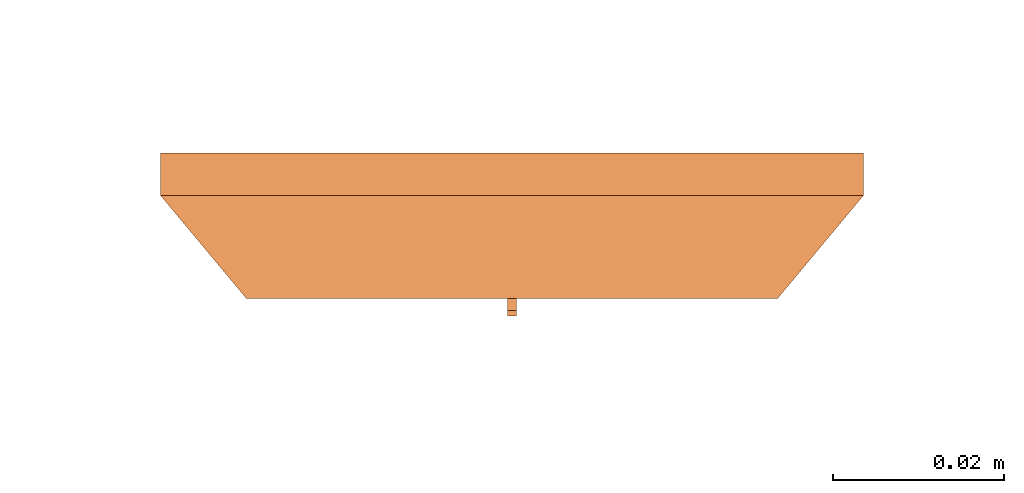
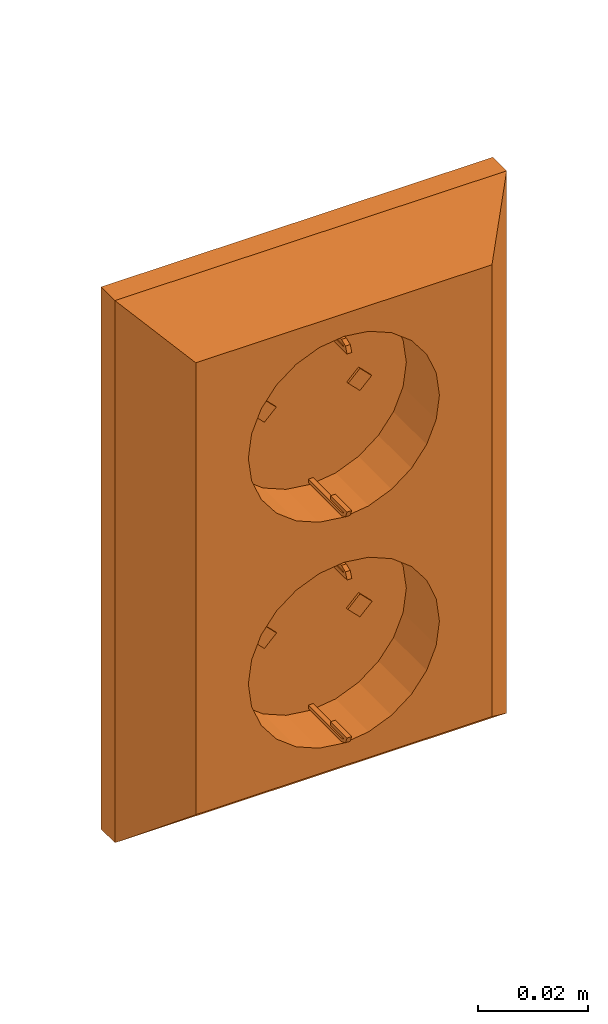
# One storey, part 9 of 9: 1 proxy.
"""IFC2X3 building model written with IfcOpenShell, lengths in millimetres."""

import ifcopenshell
import ifcopenshell.guid

model = None  # the IFC model being written
_history = None  # IfcOwnerHistory: only IFC2X3 demands one
_inside = {}  # id of a spatial element -> (the spatial element, [elements in it])
_under = {}  # id of a project, library or spatial element -> (it, [spatial elements below it])
_declared = {}  # id of a project -> (the project, [libraries it declares])
_typed = {}  # id of a type object -> (the type object, [elements of that type])
_made_of = {}  # id of a material, layer set ... -> (it, [elements and type objects made of it])


def new_model(schema):
    """Start an empty IFC model of exactly this schema.

    Asked for "IFC4X3", IfcOpenShell would pick the latest addendum, in which some entities
    have other attributes; the version numbers below select the first issue.
    IFC2X3 requires an IfcOwnerHistory on every rooted entity: one is made here for all.
    """
    global model, _history
    if schema == "IFC4X3":
        model = ifcopenshell.file(schema_version=(4, 3, 0, 0))
    else:
        model = ifcopenshell.file(schema=schema)
    _inside.clear()
    _under.clear()
    _declared.clear()
    _typed.clear()
    _made_of.clear()
    _history = None
    if model.schema == "IFC2X3":
        org = make("IfcOrganization", Name="unknown")
        user = make(
            "IfcPersonAndOrganization",
            ThePerson=make("IfcPerson", FamilyName="unknown"),
            TheOrganization=org,
        )
        app = make(
            "IfcApplication",
            ApplicationDeveloper=org,
            Version="unknown",
            ApplicationFullName="unknown",
            ApplicationIdentifier="unknown",
        )
        _history = make(
            "IfcOwnerHistory",
            OwningUser=user,
            OwningApplication=app,
            ChangeAction="ADDED",
            CreationDate=0,
        )
    return model


def make(cls, **values):
    """One entity of the class cls with the attributes given. An attribute that is None is left unset."""
    return model.create_entity(
        cls, **{name: value for name, value in values.items() if value is not None}
    )


def entity(cls, *values):
    """Any entity or typed value of the class cls, its attributes in the order of the schema. None: left unset."""
    e = model.create_entity(cls)
    for i, value in enumerate(values):
        if value is not None:
            e[i] = value
    return e


def rooted(cls, **values):
    """An entity with a GlobalId (a new one), such as an element, a storey or a relation."""
    return make(cls, GlobalId=ifcopenshell.guid.new(), OwnerHistory=_history, **values)


def si_unit(unit_type, name, prefix=None):
    """IfcSIUnit, for example si_unit("LENGTHUNIT", "METRE", prefix="MILLI")."""
    return make("IfcSIUnit", UnitType=unit_type, Prefix=prefix, Name=name)


def converted_unit(unit_type, name, factor, base, dimensions=None, offset=None):
    """IfcConversionBasedUnit, such as the inch: factor (a typed value) times the base unit."""
    return make(
        "IfcConversionBasedUnit"
        if offset is None
        else "IfcConversionBasedUnitWithOffset",
        ConversionOffset=offset,
        Dimensions=None
        if dimensions is None
        else entity("IfcDimensionalExponents", *dimensions),
        UnitType=unit_type,
        Name=name,
        ConversionFactor=make(
            "IfcMeasureWithUnit", ValueComponent=factor, UnitComponent=base
        ),
    )


def derived_unit(unit_type, elements):
    """IfcDerivedUnit: a product of units, each with its exponent."""
    return make(
        "IfcDerivedUnit",
        Elements=[
            make("IfcDerivedUnitElement", Unit=unit, Exponent=power)
            for unit, power in elements
        ],
        UnitType=unit_type,
    )


def assignment(units):
    """IfcUnitAssignment: the units of a project."""
    return None if units is None else make("IfcUnitAssignment", Units=units)


def point(xyz):
    """IfcCartesianPoint."""
    return None if xyz is None else make("IfcCartesianPoint", Coordinates=xyz)


def direction(xyz):
    """IfcDirection."""
    return None if xyz is None else make("IfcDirection", DirectionRatios=xyz)


def frame(location, z_axis=None, x_axis=None):
    """IfcAxis2Placement3D, a coordinate frame: its origin and axes. An axis left out is left unset."""
    return make(
        "IfcAxis2Placement3D",
        Location=point(location),
        Axis=direction(z_axis),
        RefDirection=direction(x_axis),
    )


def origin():
    """The frame at (0, 0, 0) with its axes left unset."""
    return frame((0.0, 0.0, 0.0))


def place(relative_to, where):
    """IfcLocalPlacement: puts the frame where relative to a parent placement (None: the world)."""
    return make(
        "IfcLocalPlacement", PlacementRelTo=relative_to, RelativePlacement=where
    )


def context(
    kind, dimensions, precision=None, world=None, true_north=None, identifier=None
):
    """IfcGeometricRepresentationContext, for example the 3D "Model" context."""
    return make(
        "IfcGeometricRepresentationContext",
        ContextIdentifier=identifier,
        ContextType=kind,
        CoordinateSpaceDimension=dimensions,
        Precision=precision,
        WorldCoordinateSystem=world,
        TrueNorth=true_north,
    )


def subcontext(parent, identifier, kind, view, scale=None):
    """IfcGeometricRepresentationSubContext, for example "Body" below "Model"."""
    return make(
        "IfcGeometricRepresentationSubContext",
        ContextIdentifier=identifier,
        ContextType=kind,
        ParentContext=parent,
        TargetScale=scale,
        TargetView=view,
    )


def project(units=None, contexts=None):
    """IfcProject with its units and contexts."""
    return rooted(
        "IfcProject",
        Name="project",
        RepresentationContexts=contexts,
        UnitsInContext=assignment(units),
    )


def spatial(cls, under=None, at=None, **own):
    """A site, building, storey or space (cls), placed at a placement, below another one or the project."""
    s = rooted(cls, ObjectPlacement=at, **own)
    if under is not None:
        _under.setdefault(under.id(), (under, []))[1].append(s)
    return s


def faces_of(points, faces, orient=None, outer=None):
    """IfcFace entities. A face is a list of loops; a loop is a list of indices into points, from 0.

    orient and outer hold one flag for each loop. By default every Orientation is true, the
    first loop of a face is its IfcFaceOuterBound and the others are IfcFaceBound.
    """
    made = []
    for i, loops in enumerate(faces):
        bounds = []
        for j, loop in enumerate(loops):
            is_outer = j == 0 if outer is None else outer[i][j]
            bounds.append(
                make(
                    "IfcFaceOuterBound" if is_outer else "IfcFaceBound",
                    Bound=make("IfcPolyLoop", Polygon=[points[k] for k in loop]),
                    Orientation=True if orient is None else orient[i][j],
                )
            )
        made.append(make("IfcFace", Bounds=bounds))
    return made


def faceted_brep(points, faces, orient=None, outer=None, voids=None):
    """IfcFacetedBrep: a solid bounded by flat faces; with voids (closed shells), ...WithVoids."""
    shared = [point(p) for p in points]
    hull = make("IfcClosedShell", CfsFaces=faces_of(shared, faces, orient, outer))
    if voids is None:
        return make("IfcFacetedBrep", Outer=hull)
    return make(
        "IfcFacetedBrepWithVoids",
        Outer=hull,
        Voids=[
            make(cls, CfsFaces=faces_of(shared, fs, o, b)) for cls, fs, o, b in voids
        ],
    )


def shape(context_of_items, identifier, shape_type, items):
    """IfcShapeRepresentation: the items that make up one representation, for example the "Body"."""
    return make(
        "IfcShapeRepresentation",
        ContextOfItems=context_of_items,
        RepresentationIdentifier=identifier,
        RepresentationType=shape_type,
        Items=items,
    )


def source(mapping_origin, context_of_items, identifier, shape_type, items):
    """IfcRepresentationMap: a shape defined once, which mapped items show again and again."""
    return make(
        "IfcRepresentationMap",
        MappingOrigin=mapping_origin,
        MappedRepresentation=shape(context_of_items, identifier, shape_type, items),
    )


def transform(
    local_origin,
    x_axis=None,
    y_axis=None,
    z_axis=None,
    scale=None,
    scale2=None,
    scale3=None,
    uniform=True,
):
    """IfcCartesianTransformationOperator3D, or its non-uniform kind. x_axis, y_axis, z_axis: its Axis1, 2, 3."""
    if uniform:
        return make(
            "IfcCartesianTransformationOperator3D",
            Axis1=direction(x_axis),
            Axis2=direction(y_axis),
            LocalOrigin=point(local_origin),
            Scale=scale,
            Axis3=direction(z_axis),
        )
    return make(
        "IfcCartesianTransformationOperator3DnonUniform",
        Axis1=direction(x_axis),
        Axis2=direction(y_axis),
        LocalOrigin=point(local_origin),
        Scale=scale,
        Axis3=direction(z_axis),
        Scale2=scale2,
        Scale3=scale3,
    )


def mapped(mapping_source, mapping_target):
    """IfcMappedItem: shows the shape of a source again, moved by a transform."""
    return make(
        "IfcMappedItem", MappingSource=mapping_source, MappingTarget=mapping_target
    )


def material(Name=None, Category=None):
    """IfcMaterial."""
    return make("IfcMaterial", Name=Name, Category=Category)


def material_list(materials):
    """IfcMaterialList."""
    return make("IfcMaterialList", Materials=materials)


def made_of(thing, what):
    """Note that an element or type object is made of a material, layer set ...; save() writes the relation."""
    if what is not None:
        _made_of.setdefault(what.id(), (what, []))[1].append(thing)
    return thing


def type_object(cls, material=None, **own):
    """A type object (cls), such as IfcWallType, which elements share."""
    return made_of(rooted(cls, **own), material)


def element(
    cls,
    number,
    at=None,
    inside=None,
    cuts=None,
    type_object=None,
    material=None,
    context=None,
    identifier="Body",
    shape_type=None,
    held_by="IfcProductDefinitionShape",
    body=None,
    shapes=None,
    **own,
):
    """One element of the class cls, such as IfcWall. Its Tag is "e" and its number.

    at: its placement. inside: the storey or other place that contains it. cuts: it is an
    opening in that element (IfcRelVoidsElement). A single representation is given by context,
    identifier, shape_type and body (its items); several are given by shapes. held_by: the class
    of the entity that holds the representations. save() writes the other relations.
    """
    e = rooted(cls, Tag="e%d" % number, ObjectPlacement=at, **own)
    if body is not None:
        shapes = [shape(context, identifier, shape_type, body)]
    if shapes is not None:
        e.Representation = make(held_by, Representations=shapes)
    if inside is not None:
        _inside.setdefault(inside.id(), (inside, []))[1].append(e)
    if cuts is not None:
        rooted(
            "IfcRelVoidsElement", RelatingBuildingElement=cuts, RelatedOpeningElement=e
        )
    if type_object is not None:
        _typed.setdefault(type_object.id(), (type_object, []))[1].append(e)
    return made_of(e, material)


def aggregate(whole, parts):
    """IfcRelAggregates: a whole, such as a stair, and the parts it consists of."""
    return rooted("IfcRelAggregates", RelatingObject=whole, RelatedObjects=parts)


def save(model, path):
    """Write the relations noted so far, then the file.

    IfcRelAggregates (storeys below a building ...), IfcRelContainedInSpatialStructure (elements
    in a storey), IfcRelDefinesByType, IfcRelAssociatesMaterial and IfcRelDeclares: one each for
    every whole, place, type object, material and project.
    """
    for whole, parts in _under.values():
        aggregate(whole, parts)
    for where, things in _inside.values():
        rooted(
            "IfcRelContainedInSpatialStructure",
            RelatedElements=things,
            RelatingStructure=where,
        )
    for kind, things in _typed.values():
        rooted("IfcRelDefinesByType", RelatedObjects=things, RelatingType=kind)
    for what, things in _made_of.values():
        rooted("IfcRelAssociatesMaterial", RelatedObjects=things, RelatingMaterial=what)
    for by, libraries in _declared.values():
        rooted("IfcRelDeclares", RelatingContext=by, RelatedDefinitions=libraries)
    model.write(path)


model = new_model("IFC2X3")

# Units and contexts
model_context = context("Model", 3, precision=0.01, world=frame((0.0, 4.29681676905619e-09, 0.0)), true_north=direction((4.01073788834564e-13, 1.0)))
plan_context = context("Plan", 3, precision=0.01, world=frame((0.0, 4.29681676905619e-09, 0.0)), true_north=direction((4.01073788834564e-13, 1.0)))
body_context = subcontext(model_context, "Body", "Model", "MODEL_VIEW")
ifc_project = project(units=[converted_unit("PLANEANGLEUNIT", "DEGREE", entity("IfcPositiveLengthMeasure", 0.0174532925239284), si_unit("PLANEANGLEUNIT", "RADIAN"), dimensions=[0, 0, 0, 0, 0, 0, 0]), si_unit("AREAUNIT", "SQUARE_METRE"), si_unit("LENGTHUNIT", "METRE", prefix="MILLI"), si_unit("MASSUNIT", "GRAM", prefix="KILO"), si_unit("POWERUNIT", "WATT"), si_unit("PRESSUREUNIT", "PASCAL", prefix="KILO"), si_unit("FORCEUNIT", "NEWTON", prefix="KILO"), si_unit("ELECTRICVOLTAGEUNIT", "VOLT"), si_unit("ELECTRICCURRENTUNIT", "AMPERE"), si_unit("THERMODYNAMICTEMPERATUREUNIT", "DEGREE_CELSIUS"), si_unit("TIMEUNIT", "SECOND"), si_unit("VOLUMEUNIT", "CUBIC_METRE"), derived_unit("LINEARVELOCITYUNIT", [(si_unit("LENGTHUNIT", "METRE"), 1), (si_unit("TIMEUNIT", "SECOND"), -1)]), derived_unit("VOLUMETRICFLOWRATEUNIT", [(si_unit("VOLUMEUNIT", "CUBIC_METRE"), 1), (si_unit("TIMEUNIT", "SECOND"), -1)]), derived_unit("THERMALTRANSMITTANCEUNIT", [(si_unit("POWERUNIT", "WATT"), 1), (si_unit("THERMODYNAMICTEMPERATUREUNIT", "KELVIN"), -1), (si_unit("AREAUNIT", "SQUARE_METRE"), -1)]), derived_unit("SOUNDPRESSUREUNIT", [(si_unit("PRESSUREUNIT", "PASCAL"), 1)])], contexts=[model_context, plan_context])

# Site, building, storey
site_placement = place(None, frame((0.0, -4.29681676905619e-09, 0.0), z_axis=(0.0, 0.0, 1.0), x_axis=(1.0, 0.0, 0.0)))
site = spatial("IfcSite", under=ifc_project, at=site_placement, Name="Default", CompositionType="ELEMENT")
building_placement = place(site_placement, frame((0.0, 4.29681676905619e-09, 0.0), z_axis=(0.0, 0.0, 1.0), x_axis=(1.0, 0.0, 0.0)))
building = spatial("IfcBuilding", under=site, at=building_placement, CompositionType="ELEMENT")
storey_placement = place(building_placement, frame((0.0, 0.0, 210900.0), z_axis=(0.0, 0.0, 1.0), x_axis=(1.0, 0.0, 0.0)))
storey = spatial("IfcBuildingStorey", under=building, at=storey_placement, Name="Nivå F", CompositionType="ELEMENT", Elevation=210900.0)

# Proxy
ifc_material_1 = material(Name="Material3")
ifc_material_2 = material(Name="Material2")
ifc_material_3 = material(Name="Material1")
ifc_material_list = material_list([ifc_material_1, ifc_material_2, ifc_material_3])
building_element_proxy_type = type_object("IfcBuildingElementProxyType", Name="Jordet-topolet-2-veis-m_boks (VERT):Jordet-topolet-2-veis-m_boks", PredefinedType="NOTDEFINED", material=ifc_material_list)
shared_shape = source(origin(), body_context, "Body", "Brep", [
    faceted_brep([(0.499999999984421, 17.9077381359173, -43.2900460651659), (0.499999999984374, 17.4980087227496, -43.5927590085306), (0.499999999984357, 17.0, -43.6999999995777), (0.499999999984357, 5.0, -43.6999999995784), (0.499999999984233, 5.0, -44.4999999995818), (0.499999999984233, 17.0, -44.4999999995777), (0.499999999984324, 18.4212520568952, -43.9112981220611), (0.499999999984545, 19.0099539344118, -42.490046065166), (0.499999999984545, 13.0337787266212, -42.4900460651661), (0.499999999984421, 13.0337787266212, -43.2900460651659), (-0.500000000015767, 5.0, -44.4999999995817), (-0.500000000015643, 5.0, -43.6999999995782), (-0.500000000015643, 17.0, -43.6999999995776), (-0.500000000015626, 17.4980087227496, -43.5927590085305), (-0.500000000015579, 17.9077381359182, -43.2900460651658), (-0.500000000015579, 13.0337787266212, -43.2900460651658), (-0.500000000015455, 13.0337787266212, -42.4900460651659), (-0.500000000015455, 19.0099539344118, -42.4900460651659), (-0.500000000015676, 18.4212520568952, -43.911298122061), (-0.500000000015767, 17.0, -44.4999999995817)], [[[0, 1, 2, 3, 4, 5, 6, 7, 8, 9]], [[10, 11, 12, 13, 14, 15, 16, 17, 18, 19]], [[10, 19, 5, 4]], [[11, 10, 4, 3]], [[12, 11, 3, 2]], [[2, 1, 13, 12]], [[0, 14, 13, 1]], [[15, 14, 0, 9]], [[16, 15, 9, 8]], [[17, 16, 8, 7]], [[17, 7, 6, 18]], [[6, 5, 19, 18]]]),
    faceted_brep([(-0.500000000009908, 17.9240022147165, -6.72220296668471), (-0.500000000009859, 17.5079457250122, -6.41055048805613), (-0.500000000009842, 17.0, -6.29999999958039), (-0.500000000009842, 5.0, -6.29999999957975), (-0.500000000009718, 5.0, -5.49999999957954), (-0.500000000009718, 17.0, -5.49999999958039), (-0.50000000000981, 18.429913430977, -6.09228953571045), (-0.500000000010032, 19.022202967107, -7.52220296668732), (-0.500000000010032, 13.0667616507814, -7.52220296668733), (-0.500000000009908, 13.0667616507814, -6.7222029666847), (0.499999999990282, 5.0, -5.4999999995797), (0.499999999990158, 5.0, -6.29999999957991), (0.499999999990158, 17.0, -6.29999999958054), (0.499999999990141, 17.5079457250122, -6.41055048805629), (0.499999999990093, 17.9240022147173, -6.72220296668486), (0.499999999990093, 13.0667616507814, -6.72220296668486), (0.499999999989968, 13.0667616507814, -7.52220296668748), (0.499999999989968, 19.022202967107, -7.52220296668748), (0.49999999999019, 18.429913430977, -6.09228953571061), (0.499999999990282, 17.0, -5.4999999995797)], [[[0, 1, 2, 3, 4, 5, 6, 7, 8, 9]], [[10, 11, 12, 13, 14, 15, 16, 17, 18, 19]], [[5, 19, 18, 6]], [[18, 17, 7, 6]], [[8, 7, 17, 16]], [[9, 8, 16, 15]], [[0, 9, 15, 14]], [[14, 13, 1, 0]], [[12, 2, 1, 13]], [[3, 2, 12, 11]], [[4, 3, 11, 10]], [[5, 4, 10, 19]]]),
    faceted_brep([(-0.500000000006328, 18.4212520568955, 6.0887018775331), (-0.500000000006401, 17.0, 5.5000000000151), (-0.500000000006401, 5.0, 5.5000000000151), (-0.500000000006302, 5.0, 6.30000000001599), (-0.500000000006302, 17.0, 6.30000000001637), (-0.500000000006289, 17.4980087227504, 6.40724099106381), (-0.500000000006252, 17.9077381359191, 6.70995393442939), (-0.500000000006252, 13.0337787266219, 6.70995393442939), (-0.500000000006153, 13.0337787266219, 7.50995393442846), (-0.500000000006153, 19.0099539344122, 7.50995393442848), (0.499999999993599, 5.0, 5.50000000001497), (0.499999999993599, 17.0, 5.50000000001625), (0.499999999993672, 18.4212520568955, 6.08870187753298), (0.499999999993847, 19.0099539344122, 7.50995393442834), (0.499999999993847, 13.0337787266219, 7.50995393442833), (0.499999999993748, 13.0337787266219, 6.70995393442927), (0.499999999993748, 17.9077381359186, 6.70995393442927), (0.499999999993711, 17.4980087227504, 6.40724099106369), (0.499999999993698, 17.0, 6.30000000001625), (0.499999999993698, 5.0, 6.30000000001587)], [[[0, 1, 2, 3, 4, 5, 6, 7, 8, 9]], [[10, 11, 12, 13, 14, 15, 16, 17, 18, 19]], [[2, 1, 11, 10]], [[3, 2, 10, 19]], [[4, 3, 19, 18]], [[18, 17, 5, 4]], [[16, 6, 5, 17]], [[7, 6, 16, 15]], [[8, 7, 15, 14]], [[9, 8, 14, 13]], [[9, 13, 12, 0]], [[12, 11, 1, 0]]]),
    faceted_brep([(-0.50000000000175, 17.9240022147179, 43.2777970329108), (-0.500000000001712, 17.5079457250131, 43.5894495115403), (-0.500000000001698, 17.0, 43.7000000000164), (-0.500000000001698, 5.0, 43.7000000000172), (-0.5000000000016, 5.0, 44.5000000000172), (-0.5000000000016, 17.0, 44.5000000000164), (-0.500000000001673, 18.4299134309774, 43.9077104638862), (-0.500000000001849, 19.0222029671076, 42.4777970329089), (-0.500000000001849, 13.0667616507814, 42.4777970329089), (-0.50000000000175, 13.0667616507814, 43.2777970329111), (0.4999999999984, 5.0, 44.5000000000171), (0.499999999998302, 5.0, 43.7000000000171), (0.499999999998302, 17.0, 43.7000000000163), (0.499999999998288, 17.5079457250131, 43.5894495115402), (0.49999999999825, 17.9240022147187, 43.277797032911), (0.49999999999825, 13.0667616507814, 43.277797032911), (0.499999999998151, 13.0667616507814, 42.4777970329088), (0.499999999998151, 19.0222029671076, 42.4777970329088), (0.499999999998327, 18.4299134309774, 43.9077104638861), (0.4999999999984, 17.0, 44.5000000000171)], [[[0, 1, 2, 3, 4, 5, 6, 7, 8, 9]], [[10, 11, 12, 13, 14, 15, 16, 17, 18, 19]], [[5, 19, 18, 6]], [[18, 17, 7, 6]], [[8, 7, 17, 16]], [[9, 8, 16, 15]], [[0, 9, 15, 14]], [[14, 13, 1, 0]], [[12, 2, 1, 13]], [[3, 2, 12, 11]], [[4, 3, 11, 10]], [[5, 4, 10, 19]]]),
    faceted_brep([(-8.89218180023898, 5.50000000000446, -26.4355061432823), (-10.0, 5.50000000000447, -27.5433243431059), (-11.2716621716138, 5.50000000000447, -26.2716621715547), (-12.5433243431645, 5.50000000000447, -25.0), (-11.107818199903, 5.50000000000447, -23.5644938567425), (-10.0, 5.50000000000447, -22.456675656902), (-8.72833782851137, 5.50000000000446, -23.7283378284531), (-7.45667565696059, 5.50000000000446, -25.0), (-7.45667565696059, 5.0, -25.0), (-8.72833782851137, 5.0, -23.7283378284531), (-10.0, 5.0, -22.456675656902), (-11.2716621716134, 5.0, -23.7283378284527), (-12.5433243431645, 5.0, -25.0), (-11.2716621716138, 5.0, -26.2716621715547), (-10.0, 5.0, -27.5433243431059), (-8.72833782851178, 5.0, -26.2716621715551)], [[[0, 1, 2, 3, 4, 5, 6, 7]], [[8, 9, 10, 11, 12, 13, 14, 15]], [[11, 10, 5, 4, 3, 12]], [[13, 12, 3, 2, 1, 14]], [[15, 14, 1, 0, 7, 8]], [[9, 8, 7, 6, 5, 10]]]),
    faceted_brep([(12.5429237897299, 5.0, -25.0), (11.2714618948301, 5.0, -23.7285381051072), (10.0, 5.0, -22.457076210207), (8.72853810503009, 5.0, -23.7285381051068), (7.4570762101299, 5.0, -25.0), (8.72853810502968, 5.0, -26.2714618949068), (10.0, 5.0, -27.542923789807), (11.2714618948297, 5.0, -26.2714618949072), (11.1077309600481, 5.50000000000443, -23.5648071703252), (12.5429237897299, 5.50000000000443, -25.0), (11.2714618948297, 5.50000000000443, -26.2714618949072), (10.0, 5.50000000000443, -27.542923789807), (8.89226903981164, 5.50000000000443, -26.4351928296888), (7.4570762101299, 5.50000000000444, -25.0), (8.72853810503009, 5.50000000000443, -23.7285381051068), (10.0, 5.50000000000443, -22.457076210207)], [[[0, 1, 2, 3, 4, 5, 6, 7]], [[8, 9, 10, 11, 12, 13, 14, 15]], [[15, 14, 13, 4, 3, 2]], [[13, 12, 11, 6, 5, 4]], [[11, 10, 9, 0, 7, 6]], [[9, 8, 15, 2, 1, 0]]]),
    faceted_brep([(-7.54751482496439, 5.50000000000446, 25.0), (-8.9121454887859, 5.50000000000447, 23.6353693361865), (-10.0, 5.50000000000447, 22.5475148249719), (-11.2262425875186, 5.50000000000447, 23.7737574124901), (-12.4524851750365, 5.50000000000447, 25.0), (-11.0878545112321, 5.50000000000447, 26.3646306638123), (-10.0, 5.50000000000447, 27.452485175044), (-8.77375741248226, 5.50000000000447, 26.2262425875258), (-11.2262425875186, 5.0, 23.7737574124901), (-10.0, 5.0, 22.5475148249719), (-8.77375741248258, 5.0, 23.7737574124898), (-7.54751482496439, 5.0, 25.0), (-8.77375741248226, 5.0, 26.2262425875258), (-10.0, 5.0, 27.452485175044), (-11.2262425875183, 5.0, 26.2262425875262), (-12.4524851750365, 5.0, 25.0)], [[[0, 1, 2, 3, 4, 5, 6, 7]], [[8, 9, 10, 11, 12, 13, 14, 15]], [[14, 13, 6, 5, 4, 15]], [[8, 15, 4, 3, 2, 9]], [[10, 9, 2, 1, 0, 11]], [[12, 11, 0, 7, 6, 13]]]),
    faceted_brep([(8.76085027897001, 5.0, 23.7608502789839), (10.0, 5.0, 22.5217005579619), (11.2391497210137, 5.0, 23.7608502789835), (12.4782994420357, 5.0, 25.0), (11.239149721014, 5.0, 26.2391497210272), (10.0, 5.0, 27.4782994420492), (8.76085027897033, 5.0, 26.2391497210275), (7.52170055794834, 5.0, 25.0), (11.2391497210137, 5.50000000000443, 23.7608502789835), (10.0, 5.50000000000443, 22.5217005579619), (8.90643522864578, 5.50000000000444, 23.6152653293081), (7.52170055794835, 5.50000000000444, 25.0), (8.76085027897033, 5.50000000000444, 26.2391497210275), (10.0, 5.50000000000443, 27.4782994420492), (11.0935647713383, 5.50000000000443, 26.384734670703), (12.4782994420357, 5.50000000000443, 25.0)], [[[0, 1, 2, 3, 4, 5, 6, 7]], [[8, 9, 10, 11, 12, 13, 14, 15]], [[13, 12, 11, 7, 6, 5]], [[11, 10, 9, 1, 0, 7]], [[9, 8, 15, 3, 2, 1]], [[15, 14, 13, 5, 4, 3]]]),
    faceted_brep([(41.0, 5.0, -60.0), (19.318516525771, 5.0, -30.1763809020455), (17.3205080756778, 5.0, -35.0), (20.0, 5.0, -25.0), (14.1421356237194, 5.0, -39.1421356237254), (10.0, 5.0, -42.3205080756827), (5.17638090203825, 5.0, -44.3185165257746), (0.0, 5.0, -45.0), (19.3185165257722, 5.0, -19.8236190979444), (19.3185165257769, 5.0, 19.8236190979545), (-41.0, 5.0, -60.0), (41.0, 5.0, 60.0), (20.0, 5.0, 25.0), (19.3185165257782, 5.0, 30.1763809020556), (17.3205080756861, 5.0, 35.0), (14.1421356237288, 5.0, 39.1421356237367), (10.0, 5.0, 42.320508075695), (5.17638090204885, 5.0, 44.3185165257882), (0.0, 5.0, 45.0), (-41.0, 5.0, 60.0), (-19.3185165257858, 5.0, 19.8236190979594), (-20.0, 5.0, 25.0), (-5.17638090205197, 5.0, 44.3185165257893), (-10.0, 5.0, 42.3205080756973), (-14.1421356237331, 5.0, 39.14213562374), (-17.3205080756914, 5.0, 35.0), (-19.3185165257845, 5.0, 30.17638090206), (17.3205080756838, 5.0, 15.0), (17.3205080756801, 5.0, -15.0), (14.1421356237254, 5.0, 10.8578643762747), (14.1421356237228, 5.0, -10.8578643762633), (10.0, 5.0, 7.67949192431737), (10.0, 5.0, -7.67949192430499), (5.17638090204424, 5.0, 5.68148347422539), (5.17638090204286, 5.0, -5.68148347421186), (0.0, 5.0, -5.0), (0.0, 5.0, 5.0), (-5.17638090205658, 5.0, 5.68148347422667), (-5.17638090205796, 5.0, -5.68148347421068), (-10.0, 5.0, -7.67949192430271), (-10.0, 5.0, 7.67949192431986), (-14.1421356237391, 5.0, -10.8578643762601), (-14.1421356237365, 5.0, 10.8578643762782), (-17.3205080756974, 5.0, -15.0), (-17.3205080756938, 5.0, 15.0), (-19.3185165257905, 5.0, -19.82361909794), (-20.0, 5.0, -25.0), (-5.17638090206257, 5.0, -44.3185165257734), (-10.0, 5.0, -42.3205080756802), (-14.1421356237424, 5.0, -39.1421356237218), (-17.3205080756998, 5.0, -35.0), (-19.3185165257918, 5.0, -30.1763809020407), (-31.0, 17.0, -50.0), (-19.3185165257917, 17.0, -30.1763809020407), (-17.3205080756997, 17.0, -35.0), (-20.0, 17.0, -25.0), (-14.1421356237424, 17.0, -39.1421356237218), (-10.0, 17.0, -42.3205080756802), (-5.17638090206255, 17.0, -44.3185165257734), (0.0, 17.0, -45.0), (-19.3185165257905, 17.0, -19.82361909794), (-19.3185165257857, 17.0, 19.8236190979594), (31.0, 17.0, -50.0), (-31.0, 17.0, 50.0), (-20.0, 17.0, 25.0), (-19.3185165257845, 17.0, 30.17638090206), (-17.3205080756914, 17.0, 35.0), (-14.1421356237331, 17.0, 39.14213562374), (-10.0, 17.0, 42.3205080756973), (-5.17638090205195, 17.0, 44.3185165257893), (0.0, 17.0, 45.0), (31.0, 17.0, 50.0), (5.17638090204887, 17.0, 44.3185165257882), (10.0, 17.0, 42.320508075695), (14.1421356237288, 17.0, 39.1421356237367), (17.3205080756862, 17.0, 35.0), (19.3185165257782, 17.0, 30.1763809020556), (20.0, 17.0, 25.0), (19.318516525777, 17.0, 19.8236190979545), (5.17638090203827, 17.0, -44.3185165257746), (10.0, 17.0, -42.3205080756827), (14.1421356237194, 17.0, -39.1421356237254), (17.3205080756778, 17.0, -35.0), (19.318516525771, 17.0, -30.1763809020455), (20.0, 17.0, -25.0), (19.3185165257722, 17.0, -19.8236190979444), (17.3205080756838, 17.0, 15.0), (-17.3205080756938, 17.0, 15.0), (-17.3205080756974, 17.0, -15.0), (-14.1421356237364, 17.0, 10.8578643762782), (-14.1421356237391, 17.0, -10.8578643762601), (-10.0, 17.0, 7.67949192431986), (-10.0, 17.0, -7.67949192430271), (-5.17638090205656, 17.0, 5.68148347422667), (-5.17638090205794, 17.0, -5.68148347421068), (0.0, 17.0, -5.0), (0.0, 17.0, 5.0), (5.17638090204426, 17.0, 5.68148347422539), (5.17638090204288, 17.0, -5.68148347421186), (10.0, 17.0, -7.67949192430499), (10.0, 17.0, 7.67949192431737), (14.1421356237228, 17.0, -10.8578643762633), (14.1421356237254, 17.0, 10.8578643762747), (17.3205080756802, 17.0, -15.0)], [[[0, 1, 2]], [[1, 0, 3]], [[0, 2, 4]], [[4, 5, 0]], [[5, 6, 0]], [[0, 6, 7]], [[8, 3, 0]], [[8, 0, 9]], [[7, 10, 0]], [[0, 11, 9]], [[11, 12, 9]], [[12, 11, 13]], [[13, 11, 14]], [[15, 14, 11]], [[15, 11, 16]], [[17, 16, 11]], [[11, 18, 17]], [[18, 11, 19]], [[20, 19, 10]], [[20, 21, 19]], [[22, 18, 19]], [[23, 22, 19]], [[19, 24, 23]], [[24, 19, 25]], [[26, 25, 19]], [[26, 19, 21]], [[27, 8, 9]], [[27, 28, 8]], [[27, 29, 28]], [[28, 29, 30]], [[29, 31, 30]], [[32, 30, 31]], [[31, 33, 32]], [[32, 33, 34]], [[35, 34, 33]], [[33, 36, 35]], [[36, 37, 35]], [[35, 37, 38]], [[39, 38, 37]], [[37, 40, 39]], [[41, 39, 40]], [[40, 42, 41]], [[41, 42, 43]], [[42, 44, 43]], [[44, 45, 43]], [[20, 45, 44]], [[10, 45, 20]], [[46, 45, 10]], [[7, 47, 10]], [[47, 48, 10]], [[49, 10, 48]], [[10, 49, 50]], [[10, 50, 51]], [[51, 46, 10]], [[52, 53, 54]], [[53, 52, 55]], [[52, 54, 56]], [[56, 57, 52]], [[57, 58, 52]], [[52, 58, 59]], [[60, 55, 52]], [[52, 61, 60]], [[59, 62, 52]], [[61, 52, 63]], [[63, 64, 61]], [[64, 63, 65]], [[65, 63, 66]], [[67, 66, 63]], [[67, 63, 68]], [[69, 68, 63]], [[63, 70, 69]], [[70, 63, 71]], [[72, 70, 71]], [[73, 72, 71]], [[71, 74, 73]], [[74, 71, 75]], [[76, 75, 71]], [[76, 71, 77]], [[78, 77, 71]], [[78, 71, 62]], [[59, 79, 62]], [[79, 80, 62]], [[81, 62, 80]], [[62, 81, 82]], [[62, 82, 83]], [[83, 84, 62]], [[84, 85, 62]], [[62, 85, 78]], [[86, 78, 85]], [[61, 87, 60]], [[88, 60, 87]], [[87, 89, 88]], [[88, 89, 90]], [[89, 91, 90]], [[92, 90, 91]], [[91, 93, 92]], [[92, 93, 94]], [[95, 94, 93]], [[93, 96, 95]], [[96, 97, 95]], [[95, 97, 98]], [[99, 98, 97]], [[97, 100, 99]], [[101, 99, 100]], [[100, 102, 101]], [[101, 102, 103]], [[102, 86, 103]], [[85, 103, 86]], [[10, 52, 62, 0]], [[0, 62, 71, 11]], [[11, 71, 63, 19]], [[19, 63, 52, 10]], [[64, 21, 20, 61]], [[61, 20, 44, 87]], [[91, 89, 42, 40]], [[42, 89, 87, 44]], [[93, 91, 40, 37]], [[93, 37, 36, 96]], [[96, 36, 33, 97]], [[97, 33, 31, 100]], [[86, 102, 29, 27]], [[29, 102, 100, 31]], [[78, 86, 27, 9]], [[78, 9, 12, 77]], [[77, 12, 13, 76]], [[76, 13, 14, 75]], [[73, 74, 15, 16]], [[15, 74, 75, 14]], [[72, 73, 16, 17]], [[72, 17, 18, 70]], [[70, 18, 22, 69]], [[69, 22, 23, 68]], [[66, 67, 24, 25]], [[24, 67, 68, 23]], [[65, 66, 25, 26]], [[65, 26, 21, 64]], [[55, 46, 51, 53]], [[53, 51, 50, 54]], [[57, 56, 49, 48]], [[49, 56, 54, 50]], [[58, 57, 48, 47]], [[58, 47, 7, 59]], [[59, 7, 6, 79]], [[79, 6, 5, 80]], [[82, 81, 4, 2]], [[4, 81, 80, 5]], [[83, 82, 2, 1]], [[83, 1, 3, 84]], [[84, 3, 8, 85]], [[85, 8, 28, 103]], [[99, 101, 30, 32]], [[30, 101, 103, 28]], [[98, 99, 32, 34]], [[98, 34, 35, 95]], [[95, 35, 38, 94]], [[94, 38, 39, 92]], [[88, 90, 41, 43]], [[41, 90, 92, 39]], [[60, 88, 43, 45]], [[60, 45, 46, 55]]]),
    faceted_brep([(-41.0, 0.0, -60.0), (41.0, 0.0, -60.0), (41.0, 0.0, 60.0), (-41.0, 0.0, 60.0), (-41.0, 5.0, -60.0), (-41.0, 5.0, 60.0), (41.0, 5.0, 60.0), (41.0, 5.0, -60.0)], [[[0, 1, 2, 3]], [[4, 5, 6, 7]], [[1, 0, 4, 7]], [[2, 1, 7, 6]], [[3, 2, 6, 5]], [[0, 3, 5, 4]]]),
])
proxy_placement = place(storey_placement, frame((725809.403273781, 438364.504415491, 100.0), z_axis=(0.0, 0.0, 1.0), x_axis=(-1.0, 0.0, 0.0)))
element("IfcBuildingElementProxy", 1, at=proxy_placement, inside=storey, type_object=building_element_proxy_type, material=ifc_material_list, Name="Jordet-topolet-2-veis-m_boks (VERT):Jordet-topolet-2-veis-m_boks", ObjectType="Jordet-topolet-2-veis-m_boks (VERT):Jordet-topolet-2-veis-m_boks", context=body_context, shape_type="MappedRepresentation", body=[
    mapped(shared_shape, transform((0.0, 0.0, 0.0), scale=1.0)),
])

save(model, "model.ifc")
